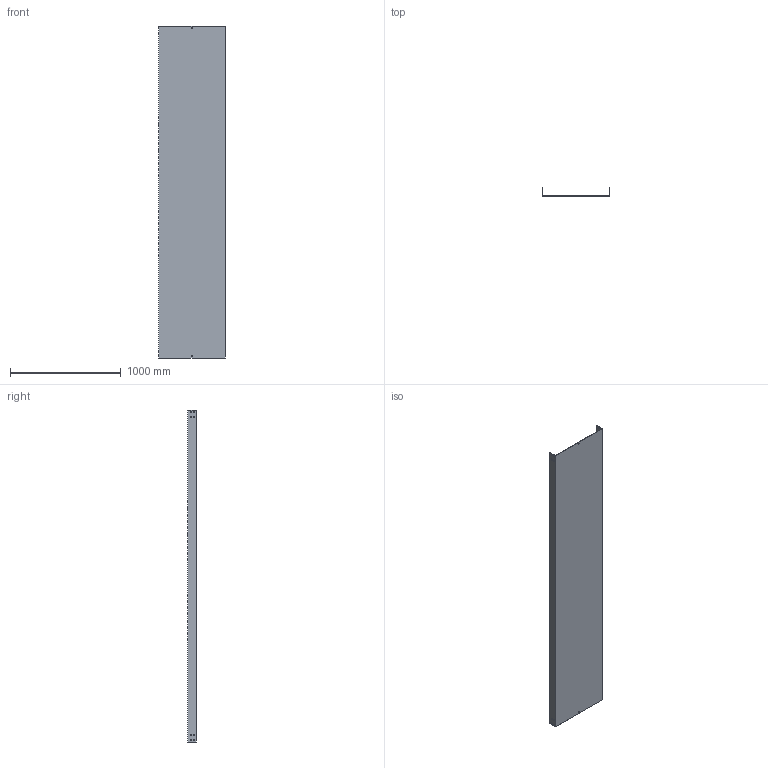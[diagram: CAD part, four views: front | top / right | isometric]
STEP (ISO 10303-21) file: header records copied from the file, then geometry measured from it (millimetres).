
FILE_DESCRIPTION (( 'STEP AP214' ), '1' );
FILE_NAME ('03B3C600.step', '2025-02-21T10:22:52', ( '' ), ( '' ), 'SwSTEP 2.0', 'SolidWorks 2023', '' );
FILE_SCHEMA (( 'AUTOMOTIVE_DESIGN' ));
Length unit declared in the file: millimetre
Products named in the file (1): 03B3C600
Bounding box: 604 x 79 x 3000 mm (x, y, z)
Volume: 7923170.5 mm3; surface area: 4555932 mm2
Topology: 1 solids, 1 shells, 82 faces, 240 edges, 160 vertices
Faces by surface type: plane 82
Entity records: 2759 total; most frequent: CARTESIAN_POINT 483, ORIENTED_EDGE 480, DIRECTION 406, EDGE_CURVE 240, LINE 240, VECTOR 240, VERTEX_POINT 160, EDGE_LOOP 118
